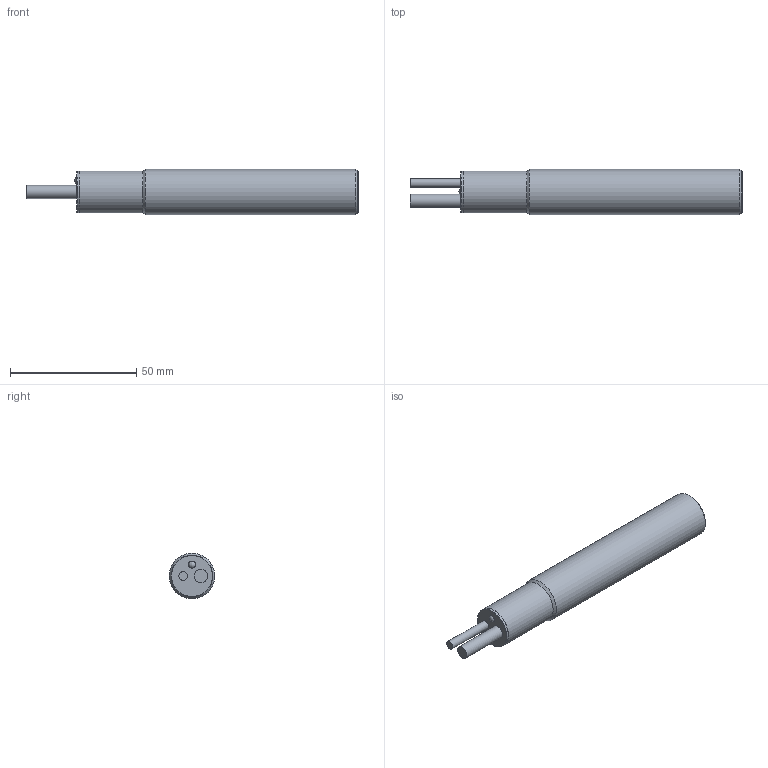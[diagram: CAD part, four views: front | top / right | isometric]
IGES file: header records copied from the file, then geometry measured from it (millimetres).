
Global section: file name: No Iges File Name specified; native system: AutoDesk Inventor R6.1; preprocessor: AutoDesk Inventor Iges Exporter R6.1; author: No Author specified; organization: No Organization specified; date: 20050810.113652; units: millimetre
Bounding box: 131.5 x 18 x 18 mm (x, y, z)
Surface area: 7240.4 mm2 (no closed solid volume)
Topology: 0 solids, 0 shells, 22 faces, 49 edges, 38 vertices
Faces by surface type: revolution 12, plane 10
